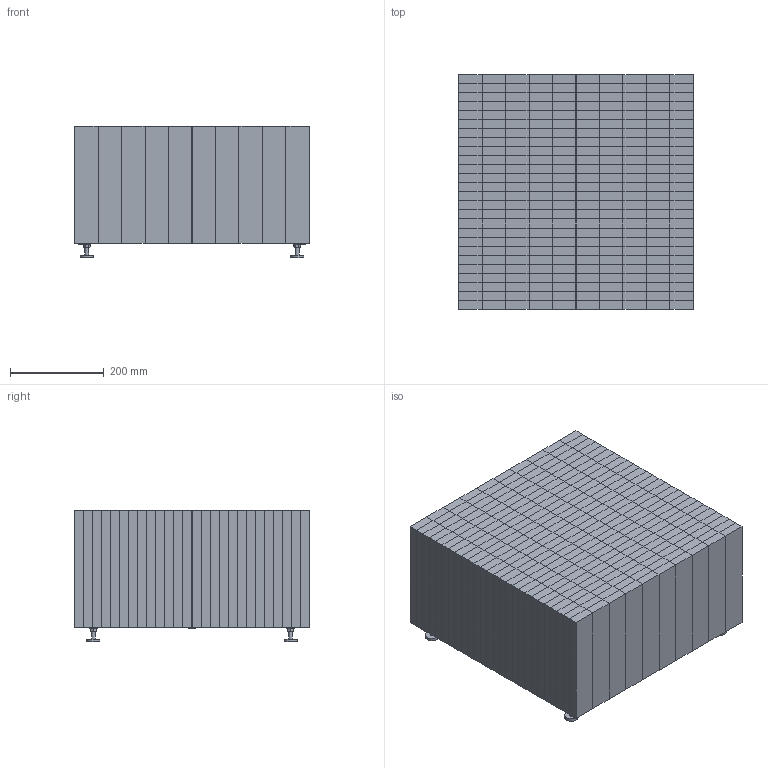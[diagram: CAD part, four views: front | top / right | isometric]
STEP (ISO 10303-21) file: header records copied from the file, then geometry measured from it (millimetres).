
FILE_DESCRIPTION(/* description */ (''),/* implementation_level */ '2;1');
FILE_NAME(/* name */ 'C:\INVENTOR\Workspace\# ARKITEKT FILER\Modules\Cutting board\Cutting Board.stp',/* time_stamp */ '2020-05-28T11:36:14+02:00',/* author */ ('Röshults'),/* organization */ (''),/* preprocessor_version */ 'ST-DEVELOPER v17.2',/* originating_system */ 'Autodesk Inventor 2019',/* authorisation */ '');
FILE_SCHEMA (('AUTOMOTIVE_DESIGN { 1 0 10303 214 3 1 1 }'));
Length unit declared in the file: millimetre
Products named in the file (1): Cutting Board
Bounding box: 500 x 500 x 281 mm (x, y, z)
Volume: 62503850.7 mm3; surface area: 9513714.3 mm2
Topology: 254 solids, 254 shells, 1698 faces, 3518 edges, 2344 vertices
Faces by surface type: plane 1636, cylinder 44, cone 18
Full cylindrical faces by diameter (mm): 4.134 x2, 8 x8, 13 x2, 16 x4, 28 x4
Entity records: 45573 total; most frequent: CARTESIAN_POINT 7689, ORIENTED_EDGE 7036, DIRECTION 7020, EDGE_CURVE 3518, LINE 3286, VECTOR 3286, VERTEX_POINT 2344, STYLED_ITEM 1952
